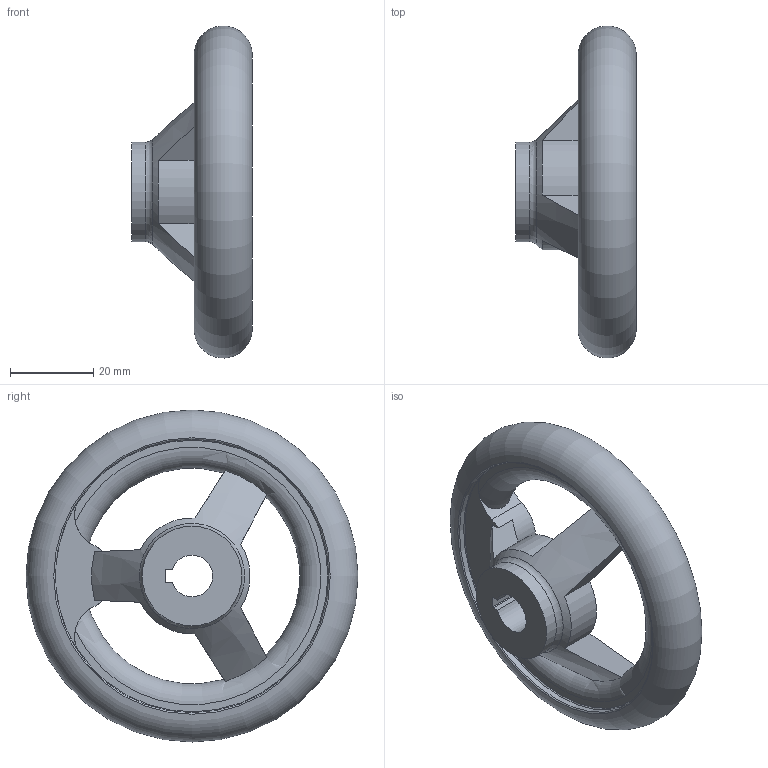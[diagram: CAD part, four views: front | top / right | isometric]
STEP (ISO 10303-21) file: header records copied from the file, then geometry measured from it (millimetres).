
FILE_DESCRIPTION( ( 'STEP AP203' ), '1' );
FILE_NAME( 'C:/Temp/Ganter_Step_05_03_2020/data/1_3/din_950/din_950_k/din_950_k_a/Handwheel DIN 950-AL-80-K10-A.stp', '2020-03-05T10:30:28', ( 'License CC BY-ND 4.0' ), ( 'CADENAS' ), ' ', 'PARTsolutions', ' ' );
FILE_SCHEMA( ( 'CONFIG_CONTROL_DESIGN' ) );
Length unit declared in the file: millimetre
Products named in the file (1): _Handwheel DIN 950-AL-80-K10-A
Bounding box: 29 x 79.98 x 79.98 mm (x, y, z)
Volume: 39885.1 mm3; surface area: 13797.2 mm2
Topology: 1 solids, 1 shells, 40 faces, 116 edges, 74 vertices
Faces by surface type: plane 15, cylinder 13, torus 10, cone 2
Full cylindrical faces by diameter (mm): 24 x2, 66 x2
Entity records: 1526 total; most frequent: CARTESIAN_POINT 500, DIRECTION 202, ORIENTED_EDGE 198, EDGE_CURVE 99, AXIS2_PLACEMENT_3D 89, VERTEX_POINT 71, EDGE_LOOP 57, FACE_OUTER_BOUND 51
